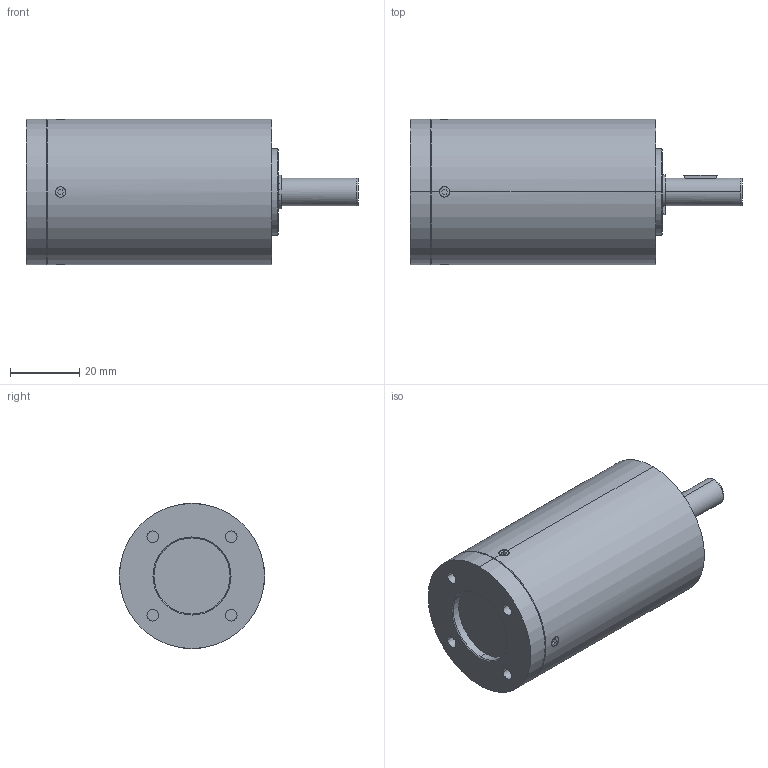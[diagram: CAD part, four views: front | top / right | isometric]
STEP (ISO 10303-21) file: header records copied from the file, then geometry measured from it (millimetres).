
FILE_DESCRIPTION((''),'2;1');
FILE_NAME('PLG42K_3ST_8X25','2005-08-26T',('Andrej.Schneider'),(''),'PRO/ENGINEER BY PARAMETRIC TECHNOLOGY CORPORATION, 2003490','PRO/ENGINEER BY PARAMETRIC TECHNOLOGY CORPORATION, 2003490','');
FILE_SCHEMA(('AUTOMOTIVE_DESIGN_CC2 { 1 2 10303 214 -1 1 5 2 }'));
Length unit declared in the file: millimetre
Products named in the file (1): PLG42K_3ST_8X25
Bounding box: 96 x 42 x 42 mm (x, y, z)
Volume: 94831.7 mm3; surface area: 18069.3 mm2
Topology: 1 solids, 9 shells, 241 faces, 596 edges, 380 vertices
Faces by surface type: cylinder 131, plane 68, cone 40, torus 2
Entity records: 8901 total; most frequent: DIRECTION 1356, CARTESIAN_POINT 1308, ORIENTED_EDGE 1128, EDGE_CURVE 580, AXIS2_PLACEMENT_3D 544, VERTEX_POINT 380, CIRCLE 302, EDGE_LOOP 280
